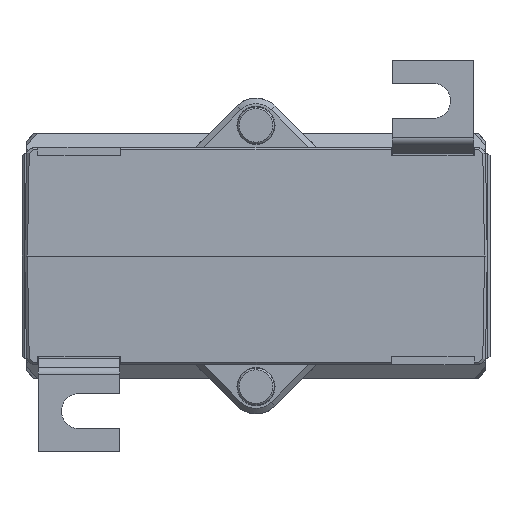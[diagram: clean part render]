
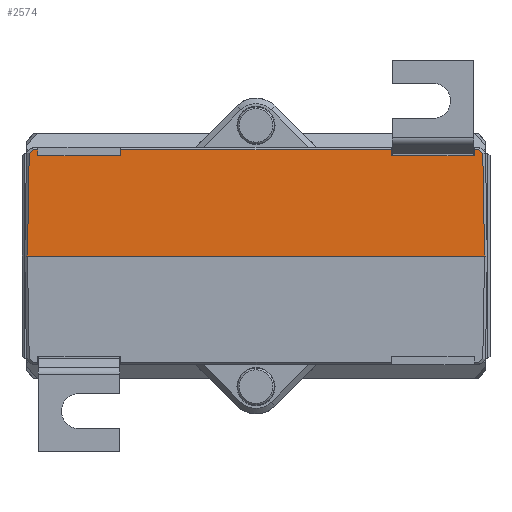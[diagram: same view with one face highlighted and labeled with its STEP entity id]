
A CAD part, front view. The second image highlights one B-rep face of the part: STEP entity #2574.
In plain terms, the highlighted planar face has unit normal (0, -1, 0.018).
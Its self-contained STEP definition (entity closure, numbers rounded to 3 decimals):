
#20 = EDGE_CURVE ( 'NONE', #71356, #46, #22606, .T. ) ;
#46 = VERTEX_POINT ( 'NONE', #22664 ) ;
#2475 = VERTEX_POINT ( 'NONE', #27498 ) ;
#2531 = ORIENTED_EDGE ( 'NONE', *, *, #20, .T. ) ;
#2535 = EDGE_CURVE ( 'NONE', #2598, #2569, #27520, .T. ) ;
#2549 = VERTEX_POINT ( 'NONE', #27614 ) ;
#2561 = EDGE_LOOP ( 'NONE', ( #2641, #2636, #2650, #2565, #2737, #2745, #2531, #2609, #2623, #2617, #2707, #2716, #2726, #2732 ) ) ;
#2565 = ORIENTED_EDGE ( 'NONE', *, *, #2660, .T. ) ;
#2569 = VERTEX_POINT ( 'NONE', #27688 ) ;
#2570 = VERTEX_POINT ( 'NONE', #27660 ) ;
#2574 = ADVANCED_FACE ( 'NONE', ( #27608 ), #27666, .T. ) ;
#2598 = VERTEX_POINT ( 'NONE', #27722 ) ;
#2604 = VERTEX_POINT ( 'NONE', #27711 ) ;
#2605 = EDGE_CURVE ( 'NONE', #46, #2649, #27702, .T. ) ;
#2609 = ORIENTED_EDGE ( 'NONE', *, *, #2605, .T. ) ;
#2612 = EDGE_CURVE ( 'NONE', #2649, #2748, #27706, .T. ) ;
#2617 = ORIENTED_EDGE ( 'NONE', *, *, #2625, .T. ) ;
#2623 = ORIENTED_EDGE ( 'NONE', *, *, #2612, .T. ) ;
#2625 = EDGE_CURVE ( 'NONE', #2748, #2655, #27696, .T. ) ;
#2630 = EDGE_CURVE ( 'NONE', #2741, #2604, #27794, .T. ) ;
#2636 = ORIENTED_EDGE ( 'NONE', *, *, #2643, .F. ) ;
#2641 = ORIENTED_EDGE ( 'NONE', *, *, #2535, .F. ) ;
#2643 = EDGE_CURVE ( 'NONE', #2475, #2598, #27807, .T. ) ;
#2649 = VERTEX_POINT ( 'NONE', #27790 ) ;
#2650 = ORIENTED_EDGE ( 'NONE', *, *, #2651, .F. ) ;
#2651 = EDGE_CURVE ( 'NONE', #2654, #2475, #26816, .T. ) ;
#2654 = VERTEX_POINT ( 'NONE', #27798 ) ;
#2655 = VERTEX_POINT ( 'NONE', #27770 ) ;
#2657 = EDGE_CURVE ( 'NONE', #2570, #2549, #27859, .T. ) ;
#2660 = EDGE_CURVE ( 'NONE', #2654, #2570, #27852, .T. ) ;
#2664 = EDGE_CURVE ( 'NONE', #2671, #2655, #27831, .T. ) ;
#2671 = VERTEX_POINT ( 'NONE', #27817 ) ;
#2705 = EDGE_CURVE ( 'NONE', #2741, #2569, #27978, .T. ) ;
#2707 = ORIENTED_EDGE ( 'NONE', *, *, #2664, .F. ) ;
#2712 = EDGE_CURVE ( 'NONE', #2671, #2604, #27877, .T. ) ;
#2716 = ORIENTED_EDGE ( 'NONE', *, *, #2712, .T. ) ;
#2726 = ORIENTED_EDGE ( 'NONE', *, *, #2630, .F. ) ;
#2732 = ORIENTED_EDGE ( 'NONE', *, *, #2705, .T. ) ;
#2737 = ORIENTED_EDGE ( 'NONE', *, *, #2657, .T. ) ;
#2740 = EDGE_CURVE ( 'NONE', #2549, #71356, #28049, .T. ) ;
#2741 = VERTEX_POINT ( 'NONE', #28046 ) ;
#2745 = ORIENTED_EDGE ( 'NONE', *, *, #2740, .T. ) ;
#2748 = VERTEX_POINT ( 'NONE', #28027 ) ;
#22594 = DIRECTION ( 'NONE',  ( 1., 0., 0. ) ) ;
#22596 = VECTOR ( 'NONE', #22594, 1000. ) ;
#22597 = CARTESIAN_POINT ( 'NONE',  ( -42.5, -43.25, 0. ) ) ;
#22606 = LINE ( 'NONE', #22597, #22596 ) ;
#22664 = CARTESIAN_POINT ( 'NONE',  ( 42., -43.25, 0. ) ) ;
#26812 = DIRECTION ( 'NONE',  ( 0.009, -0.017, -1. ) ) ;
#26814 = VECTOR ( 'NONE', #26812, 1000. ) ;
#26815 = CARTESIAN_POINT ( 'NONE',  ( -39.948, -43.25, 0.022 ) ) ;
#26816 = LINE ( 'NONE', #26815, #26814 ) ;
#27498 = CARTESIAN_POINT ( 'NONE',  ( -40.108, -42.929, 18.4 ) ) ;
#27520 = LINE ( 'NONE', #27618, #27525 ) ;
#27525 = VECTOR ( 'NONE', #27567, 1000. ) ;
#27567 = DIRECTION ( 'NONE',  ( 0.009, 0.017, 1. ) ) ;
#27608 = FACE_OUTER_BOUND ( 'NONE', #2561, .T. ) ;
#27614 = CARTESIAN_POINT ( 'NONE',  ( -41.672, -42.922, 18.776 ) ) ;
#27618 = CARTESIAN_POINT ( 'NONE',  ( -25.054, -43.253, -0.152 ) ) ;
#27648 = DIRECTION ( 'NONE',  ( 0., -0.017, -1. ) ) ;
#27650 = DIRECTION ( 'NONE',  ( 0., -1., 0.017 ) ) ;
#27651 = CARTESIAN_POINT ( 'NONE',  ( -42.5, -43.25, 0. ) ) ;
#27652 = AXIS2_PLACEMENT_3D ( 'NONE', #27651, #27650, #27648 ) ;
#27660 = CARTESIAN_POINT ( 'NONE',  ( -40.922, -42.91, 19.5 ) ) ;
#27666 = PLANE ( 'NONE',  #27652 ) ;
#27688 = CARTESIAN_POINT ( 'NONE',  ( -24.882, -42.91, 19.5 ) ) ;
#27694 = CARTESIAN_POINT ( 'NONE',  ( -41.133, -42.91, 19.5 ) ) ;
#27696 = LINE ( 'NONE', #27694, #27816 ) ;
#27698 = DIRECTION ( 'NONE',  ( -0.017, 0.017, 1. ) ) ;
#27699 = VECTOR ( 'NONE', #27698, 1000. ) ;
#27701 = CARTESIAN_POINT ( 'NONE',  ( 41.974, -43.224, 1.474 ) ) ;
#27702 = LINE ( 'NONE', #27701, #27699 ) ;
#27703 = VECTOR ( 'NONE', #27812, 1000. ) ;
#27704 = CARTESIAN_POINT ( 'NONE',  ( 40.781, -42.907, 19.636 ) ) ;
#27706 = LINE ( 'NONE', #27704, #27703 ) ;
#27711 = CARTESIAN_POINT ( 'NONE',  ( 24.892, -42.929, 18.4 ) ) ;
#27722 = CARTESIAN_POINT ( 'NONE',  ( -24.892, -42.929, 18.4 ) ) ;
#27761 = DIRECTION ( 'NONE',  ( 1., 0., 0. ) ) ;
#27763 = VECTOR ( 'NONE', #27761, 1000. ) ;
#27764 = CARTESIAN_POINT ( 'NONE',  ( -42.5, -42.929, 18.4 ) ) ;
#27770 = CARTESIAN_POINT ( 'NONE',  ( 40.118, -42.91, 19.5 ) ) ;
#27790 = CARTESIAN_POINT ( 'NONE',  ( 41.672, -42.922, 18.775 ) ) ;
#27791 = DIRECTION ( 'NONE',  ( 0.009, -0.017, -1. ) ) ;
#27792 = VECTOR ( 'NONE', #27791, 1000. ) ;
#27793 = CARTESIAN_POINT ( 'NONE',  ( 25.047, -43.24, 0.589 ) ) ;
#27794 = LINE ( 'NONE', #27793, #27792 ) ;
#27798 = CARTESIAN_POINT ( 'NONE',  ( -40.118, -42.91, 19.5 ) ) ;
#27807 = LINE ( 'NONE', #27764, #27763 ) ;
#27812 = DIRECTION ( 'NONE',  ( -0.719, 0.012, 0.695 ) ) ;
#27814 = DIRECTION ( 'NONE',  ( -1., 0., 0. ) ) ;
#27816 = VECTOR ( 'NONE', #27814, 1000. ) ;
#27817 = CARTESIAN_POINT ( 'NONE',  ( 40.108, -42.929, 18.4 ) ) ;
#27823 = DIRECTION ( 'NONE',  ( 0.009, 0.017, 1. ) ) ;
#27824 = VECTOR ( 'NONE', #27823, 1000. ) ;
#27825 = CARTESIAN_POINT ( 'NONE',  ( 39.941, -43.263, -0.719 ) ) ;
#27831 = LINE ( 'NONE', #27825, #27824 ) ;
#27845 = DIRECTION ( 'NONE',  ( -1., 0., 0. ) ) ;
#27846 = VECTOR ( 'NONE', #27845, 1000. ) ;
#27851 = CARTESIAN_POINT ( 'NONE',  ( -41.133, -42.91, 19.5 ) ) ;
#27852 = LINE ( 'NONE', #27851, #27846 ) ;
#27855 = DIRECTION ( 'NONE',  ( -0.719, -0.012, -0.695 ) ) ;
#27856 = VECTOR ( 'NONE', #27855, 1000. ) ;
#27858 = CARTESIAN_POINT ( 'NONE',  ( -41.817, -42.925, 18.636 ) ) ;
#27859 = LINE ( 'NONE', #27858, #27856 ) ;
#27877 = LINE ( 'NONE', #27962, #27969 ) ;
#27961 = DIRECTION ( 'NONE',  ( -1., 0., 0. ) ) ;
#27962 = CARTESIAN_POINT ( 'NONE',  ( -42.5, -42.929, 18.4 ) ) ;
#27969 = VECTOR ( 'NONE', #27961, 1000. ) ;
#27975 = DIRECTION ( 'NONE',  ( -1., 0., 0. ) ) ;
#27976 = VECTOR ( 'NONE', #27975, 1000. ) ;
#27977 = CARTESIAN_POINT ( 'NONE',  ( -41.133, -42.91, 19.5 ) ) ;
#27978 = LINE ( 'NONE', #27977, #27976 ) ;
#28027 = CARTESIAN_POINT ( 'NONE',  ( 40.922, -42.91, 19.5 ) ) ;
#28036 = DIRECTION ( 'NONE',  ( -0.017, -0.017, -1. ) ) ;
#28037 = VECTOR ( 'NONE', #28036, 1000. ) ;
#28046 = CARTESIAN_POINT ( 'NONE',  ( 24.882, -42.91, 19.5 ) ) ;
#28048 = CARTESIAN_POINT ( 'NONE',  ( -42., -43.25, -0.009 ) ) ;
#28049 = LINE ( 'NONE', #28048, #28037 ) ;
#53748 = CARTESIAN_POINT ( 'NONE',  ( -42., -43.25, 0. ) ) ;
#71356 = VERTEX_POINT ( 'NONE', #53748 ) ;
